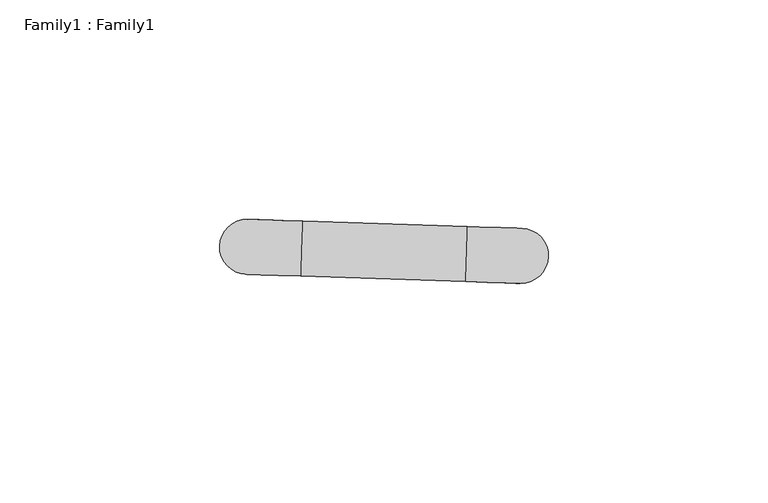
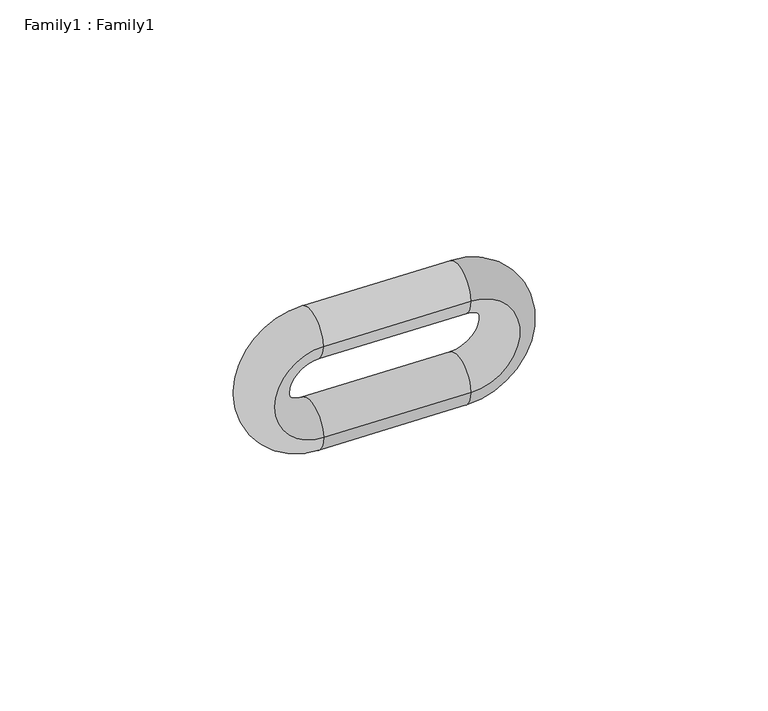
"""IFC4 building model written with IfcOpenShell, lengths in millimetres: proxy geometry, Family1 : Family1."""

from ifc_helpers import new_model, si_unit, point, frame, origin, place, context, project, spatial, circle_curve, ellipse_curve, trimmed, source, transform, mapped, element, save
from ifc_brep_helpers import cylinder_surface, revolved_surface, advanced_brep


def family1_family1_50133a43(model_context):
    return source(origin(), model_context, "Body", "AdvancedBrep", [
        advanced_brep(
        [(1384.1611287, 2186.0081449, 12.4931273), (1384.1611287, 2186.0081449, -12.4931273), (1384.5753531, 2198.4944032, -12.4931273), (1384.5753531, 2198.4944032, 12.4931273), (1347.0891023, 2199.7379881, 12.4931273), (1346.6748779, 2187.2517298, 12.4931273), (1346.6748779, 2187.2517298, -12.4931273), (1347.0891023, 2199.7379881, -12.4931273)],
        [
            (0, 1, circle_curve(frame((1384.1611287, 2186.0081449, 0.0), z_axis=(0.03315618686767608, 0.9994501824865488, 0.0), x_axis=(0.0, 0.0, -1.0)), 12.4931273)),
            (1, 2, circle_curve(frame((1384.3682409, 2192.251274, -12.4931273), z_axis=(0.9994501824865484, -0.03315618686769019, 0.0), x_axis=(-0.03315618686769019, -0.9994501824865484, 0.0)), 6.2465636)),
            (2, 3, circle_curve(frame((1384.5753531, 2198.4944032, 0.0), z_axis=(-0.03315618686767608, -0.9994501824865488, 0.0), x_axis=(0.0, 0.0, -1.0)), 12.4931273)),
            (3, 0, circle_curve(frame((1384.3682409, 2192.251274, 12.4931273), z_axis=(0.9994501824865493, -0.033156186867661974, -2.1488097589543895e-12), x_axis=(-0.033156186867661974, -0.9994501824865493, 0.0)), 6.2465636)),
            (2, 1, circle_curve(frame((1384.3682409, 2192.251274, -12.4931273), z_axis=(0.9994501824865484, -0.03315618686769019, 0.0), x_axis=(-0.03315618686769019, -0.9994501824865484, 0.0)), 6.2465636)),
            (0, 3, circle_curve(frame((1384.3682409, 2192.251274, 12.4931273), z_axis=(0.9994501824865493, -0.033156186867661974, -2.1425925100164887e-12), x_axis=(-0.033156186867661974, -0.9994501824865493, 0.0)), 6.2465636)),
            (3, 4),
            (4, 5, circle_curve(frame((1346.8819901, 2193.4948589, 12.4931273), z_axis=(0.9994501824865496, -0.03315618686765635, 0.0), x_axis=(-0.03315618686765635, -0.9994501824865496, 0.0)), 6.2465636)),
            (5, 0),
            (5, 4, circle_curve(frame((1346.8819901, 2193.4948589, 12.4931273), z_axis=(0.9994501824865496, -0.03315618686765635, 0.0), x_axis=(-0.03315618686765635, -0.9994501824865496, 0.0)), 6.2465636)),
            (6, 5, circle_curve(frame((1346.6748779, 2187.2517298, 0.0), z_axis=(0.03315618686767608, 0.9994501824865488, 0.0), x_axis=(0.0, 0.0, 1.0)), 12.4931273)),
            (4, 7, circle_curve(frame((1347.0891023, 2199.7379881, 0.0), z_axis=(-0.03315618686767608, -0.9994501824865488, 0.0), x_axis=(0.0, 0.0, 1.0)), 12.4931273)),
            (7, 6, circle_curve(frame((1346.8819901, 2193.4948589, -12.4931273), z_axis=(-0.9994501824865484, 0.033156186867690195, -2.70876048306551e-12), x_axis=(-0.033156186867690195, -0.9994501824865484, 0.0)), 6.2465636)),
            (6, 7, circle_curve(frame((1346.8819901, 2193.4948589, -12.4931273), z_axis=(-0.9994501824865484, 0.033156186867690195, -2.724747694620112e-12), x_axis=(-0.033156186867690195, -0.9994501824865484, 0.0)), 6.2465636)),
            (7, 2),
            (1, 6),
        ],
        [
            revolved_surface(trimmed(ellipse_curve(frame((1384.3682409, 2192.251274, -12.4931273), z_axis=(-0.9994501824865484, 0.03315618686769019, 0.0), x_axis=(-0.03315618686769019, -0.9994501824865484, 0.0)), 6.2465636, 6.2465636), [point((1384.5753531, 2198.4944032, -12.4931273))], [point((1384.1611287, 2186.0081449, -12.4931273))], True, "CARTESIAN"), (1384.3682409, 2192.251274, 0.0), (-0.03315618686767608, -0.9994501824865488, 0.0)),
            revolved_surface(trimmed(ellipse_curve(frame((1384.3682409, 2192.251274, -12.4931273), z_axis=(-0.9994501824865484, 0.03315618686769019, 0.0), x_axis=(-0.03315618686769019, -0.9994501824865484, 0.0)), 6.2465636, 6.2465636), [point((1384.1611287, 2186.0081449, -12.4931273))], [point((1384.5753531, 2198.4944032, -12.4931273))], True, "CARTESIAN"), (1384.3682409, 2192.251274, 0.0), (-0.03315618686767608, -0.9994501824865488, 0.0)),
            cylinder_surface(frame((1384.3682409, 2192.251274, 12.4931273), z_axis=(0.9994501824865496, -0.03315618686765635, 0.0), x_axis=(-0.03315618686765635, -0.9994501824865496, 0.0)), 6.2465636),
            revolved_surface(trimmed(ellipse_curve(frame((1346.8819901, 2193.4948589, 12.4931273), z_axis=(0.9994501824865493, -0.03315618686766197, 0.0), x_axis=(-0.03315618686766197, -0.9994501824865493, 0.0)), 6.2465636, 6.2465636), [point((1347.0891023, 2199.7379881, 12.4931273))], [point((1346.6748779, 2187.2517298, 12.4931273))], True, "CARTESIAN"), (1346.8819901, 2193.4948589, 0.0), (-0.03315618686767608, -0.9994501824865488, 0.0)),
            revolved_surface(trimmed(ellipse_curve(frame((1346.8819901, 2193.4948589, 12.4931273), z_axis=(0.9994501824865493, -0.03315618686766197, 0.0), x_axis=(-0.03315618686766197, -0.9994501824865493, 0.0)), 6.2465636, 6.2465636), [point((1346.6748779, 2187.2517298, 12.4931273))], [point((1347.0891023, 2199.7379881, 12.4931273))], True, "CARTESIAN"), (1346.8819901, 2193.4948589, 0.0), (-0.03315618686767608, -0.9994501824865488, 0.0)),
            cylinder_surface(frame((1346.8819901, 2193.4948589, -12.4931273), z_axis=(-0.9994501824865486, 0.03315618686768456, 0.0), x_axis=(-0.03315618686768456, -0.9994501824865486, 0.0)), 6.2465636),
        ],
        [
            (0, [[1, 2, 3, 4]]),
            (1, [[-3, 5, -1, 6]]),
            (2, [[-4, 7, 8, 9]]),
            (2, [[-6, -9, 10, -7]]),
            (3, [[11, -8, 12, 13]]),
            (4, [[-12, -10, -11, 14]]),
            (5, [[-13, 15, -2, 16]]),
            (5, [[-14, -16, -5, -15]]),
        ],
    ),
    ])


if __name__ == "__main__":
    model = new_model("IFC4")
    model_context = context("Model", 3, world=origin())
    ifc_project = project(units=[si_unit("LENGTHUNIT", "METRE", prefix="MILLI")], contexts=[model_context])
    site = spatial("IfcSite", under=ifc_project)
    building = spatial("IfcBuilding", under=site)
    placement = place(None, origin())
    family1_family1_shape = family1_family1_50133a43(model_context)
    element("IfcBuildingElementProxy", 1, Name="Family1 : Family1", ObjectType="Family1 : Family1", at=placement, inside=building, context=model_context, shape_type="MappedRepresentation", body=[
        mapped(family1_family1_shape, transform((0.0, 0.0, 0.0), x_axis=(1.0, 0.0, 0.0), y_axis=(0.0, 1.0, 0.0), z_axis=(0.0, 0.0, 1.0))),
    ])
    save(model, "model.ifc")
